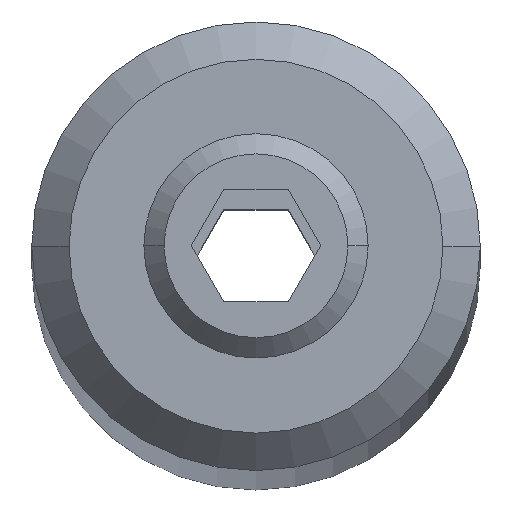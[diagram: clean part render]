
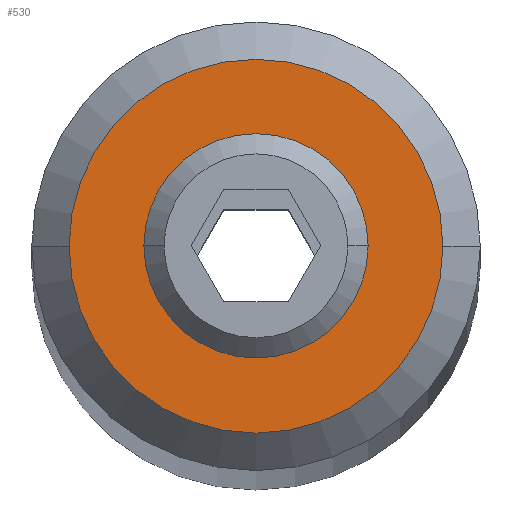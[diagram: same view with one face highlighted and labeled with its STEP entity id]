
A CAD part, top view. The second image highlights one B-rep face of the part: STEP entity #530.
In plain terms, the highlighted planar face has unit normal (0, 0, 1).
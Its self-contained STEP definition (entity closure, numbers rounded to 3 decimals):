
#39 = EDGE_CURVE ( 'NONE', #735, #182, #117, .T. ) ;
#92 = AXIS2_PLACEMENT_3D ( 'NONE', #279, #647, #121 ) ;
#108 = CARTESIAN_POINT ( 'NONE',  ( 0., 0., 75. ) ) ;
#114 = VERTEX_POINT ( 'NONE', #697 ) ;
#117 = CIRCLE ( 'NONE', #367, 2.5 ) ;
#121 = DIRECTION ( 'NONE',  ( 1., 0., 0. ) ) ;
#160 = ORIENTED_EDGE ( 'NONE', *, *, #39, .T. ) ;
#162 = PLANE ( 'NONE',  #165 ) ;
#165 = AXIS2_PLACEMENT_3D ( 'NONE', #832, #619, #689 ) ;
#182 = VERTEX_POINT ( 'NONE', #277 ) ;
#194 = ORIENTED_EDGE ( 'NONE', *, *, #434, .F. ) ;
#219 = CARTESIAN_POINT ( 'NONE',  ( 0., 0., 75. ) ) ;
#220 = CIRCLE ( 'NONE', #444, 1.25 ) ;
#242 = DIRECTION ( 'NONE',  ( 0., 0., 1. ) ) ;
#259 = EDGE_LOOP ( 'NONE', ( #786, #194 ) ) ;
#277 = CARTESIAN_POINT ( 'NONE',  ( 2.5, 0., 75. ) ) ;
#279 = CARTESIAN_POINT ( 'NONE',  ( 0., 0., 75. ) ) ;
#339 = DIRECTION ( 'NONE',  ( 0., 0., 1. ) ) ;
#366 = EDGE_CURVE ( 'NONE', #182, #735, #796, .T. ) ;
#367 = AXIS2_PLACEMENT_3D ( 'NONE', #108, #242, #893 ) ;
#392 = FACE_BOUND ( 'NONE', #259, .T. ) ;
#420 = CARTESIAN_POINT ( 'NONE',  ( 0., 0., 75. ) ) ;
#434 = EDGE_CURVE ( 'NONE', #443, #114, #220, .T. ) ;
#443 = VERTEX_POINT ( 'NONE', #931 ) ;
#444 = AXIS2_PLACEMENT_3D ( 'NONE', #420, #339, #943 ) ;
#477 = CIRCLE ( 'NONE', #92, 1.25 ) ;
#530 = ADVANCED_FACE ( 'NONE', ( #392, #539 ), #162, .T. ) ;
#539 = FACE_OUTER_BOUND ( 'NONE', #876, .T. ) ;
#619 = DIRECTION ( 'NONE',  ( 0., 0., 1. ) ) ;
#647 = DIRECTION ( 'NONE',  ( 0., 0., 1. ) ) ;
#666 = EDGE_CURVE ( 'NONE', #114, #443, #477, .T. ) ;
#689 = DIRECTION ( 'NONE',  ( 1., 0., 0. ) ) ;
#697 = CARTESIAN_POINT ( 'NONE',  ( 1.25, 0., 75. ) ) ;
#699 = ORIENTED_EDGE ( 'NONE', *, *, #366, .T. ) ;
#720 = DIRECTION ( 'NONE',  ( 0., 0., 1. ) ) ;
#726 = AXIS2_PLACEMENT_3D ( 'NONE', #219, #720, #951 ) ;
#735 = VERTEX_POINT ( 'NONE', #844 ) ;
#786 = ORIENTED_EDGE ( 'NONE', *, *, #666, .F. ) ;
#796 = CIRCLE ( 'NONE', #726, 2.5 ) ;
#832 = CARTESIAN_POINT ( 'NONE',  ( 0., 0., 75. ) ) ;
#844 = CARTESIAN_POINT ( 'NONE',  ( -2.5, 0., 75. ) ) ;
#876 = EDGE_LOOP ( 'NONE', ( #160, #699 ) ) ;
#893 = DIRECTION ( 'NONE',  ( 1., 0., 0. ) ) ;
#931 = CARTESIAN_POINT ( 'NONE',  ( -1.25, 0., 75. ) ) ;
#943 = DIRECTION ( 'NONE',  ( 1., 0., 0. ) ) ;
#951 = DIRECTION ( 'NONE',  ( 1., 0., 0. ) ) ;
